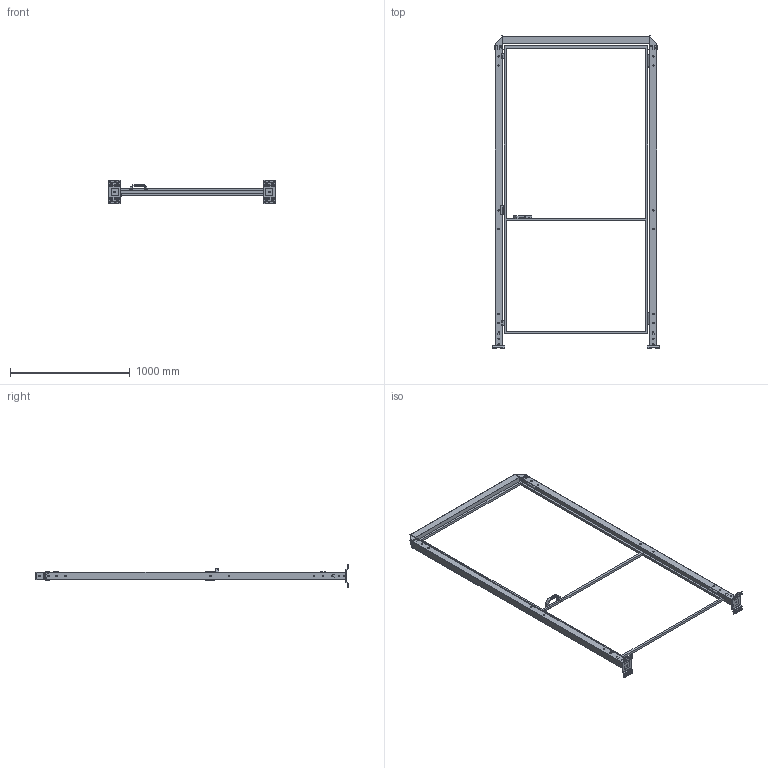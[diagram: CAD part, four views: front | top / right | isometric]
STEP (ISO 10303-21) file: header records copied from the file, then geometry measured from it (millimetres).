
FILE_DESCRIPTION(('STEP AP242'),'1');
FILE_NAME('vfda_bscndr2_12002520.stp','2025-01-23T13:51:53',('TraceParts'),('TraceParts S.A.'),'Spatial InterOp 3D',' ',' ');
FILE_SCHEMA(('AP242_MANAGED_MODEL_BASED_3D_ENGINEERING_MIM_LF {1 0 10303 442 1 1 4}'));
Length unit declared in the file: millimetre
Products named in the file (1): vfda_bscndr2_12002520_1
Bounding box: 1390 x 2601 x 192 mm (x, y, z)
Volume: 5940132.7 mm3; surface area: 3830036.2 mm2
Topology: 12 solids, 12 shells, 1874 faces, 5016 edges, 3212 vertices
Faces by surface type: plane 906, cylinder 628, bspline 236, cone 60, torus 40, sphere 4
Entity records: 75648 total; most frequent: CARTESIAN_POINT 13827, ORIENTED_EDGE 10024, DIRECTION 9202, EDGE_CURVE 5012, VERTEX_POINT 3212, LINE 3072, VECTOR 3072, AXIS2_PLACEMENT_3D 3065
